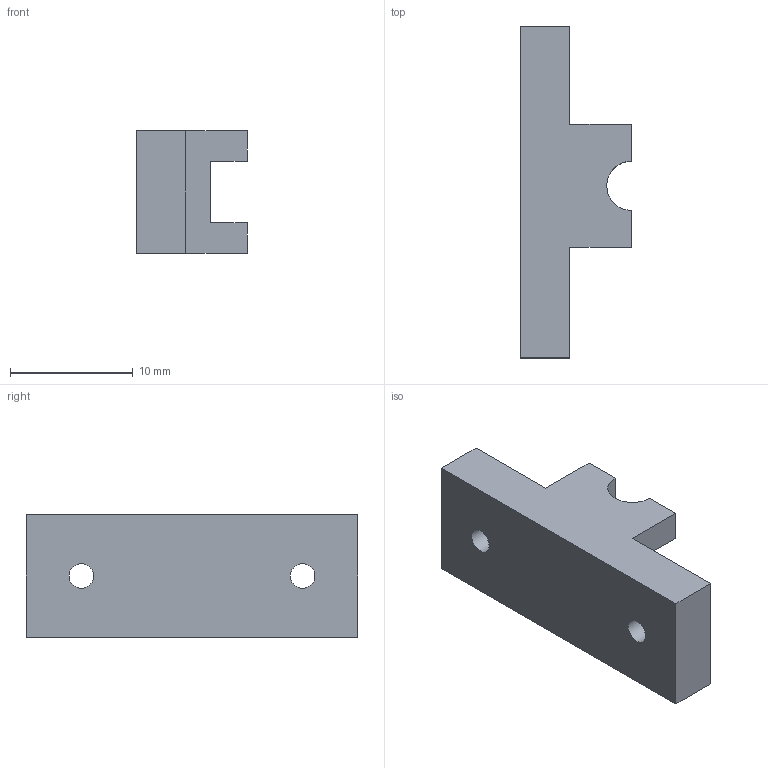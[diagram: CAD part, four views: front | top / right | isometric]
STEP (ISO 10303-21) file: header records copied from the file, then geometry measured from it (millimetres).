
FILE_DESCRIPTION(/* description */ ('Крышка'),/* implementation_level */ '2;1');
FILE_NAME(/* name */ 'D:\ \Работа\JuniorSkills\2018\ОтборочныйЗадание\Микроскоп\STEP\Крышка.stp',/* time_stamp */ '2017-11-09T06:45:51+07:00',/* author */ ('Andrey'),/* organization */ (''),/* preprocessor_version */ 'ST-DEVELOPER v15.6',/* originating_system */ 'Autodesk Inventor 2015',/* authorisation */ '');
FILE_SCHEMA (('AUTOMOTIVE_DESIGN { 1 0 10303 214 3 1 1 }'));
Length unit declared in the file: millimetre
Products named in the file (1): Крышка
Bounding box: 9 x 27 x 10 mm (x, y, z)
Volume: 1373.5 mm3; surface area: 1090 mm2
Topology: 1 solids, 1 shells, 20 faces, 54 edges, 36 vertices
Faces by surface type: plane 16, cylinder 4
Full cylindrical faces by diameter (mm): 2 x2
Entity records: 648 total; most frequent: CARTESIAN_POINT 109, ORIENTED_EDGE 104, DIRECTION 102, EDGE_CURVE 52, LINE 44, VECTOR 44, VERTEX_POINT 36, AXIS2_PLACEMENT_3D 29
